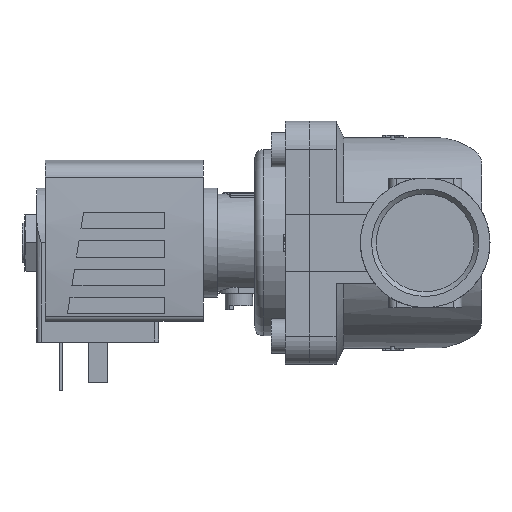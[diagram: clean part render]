
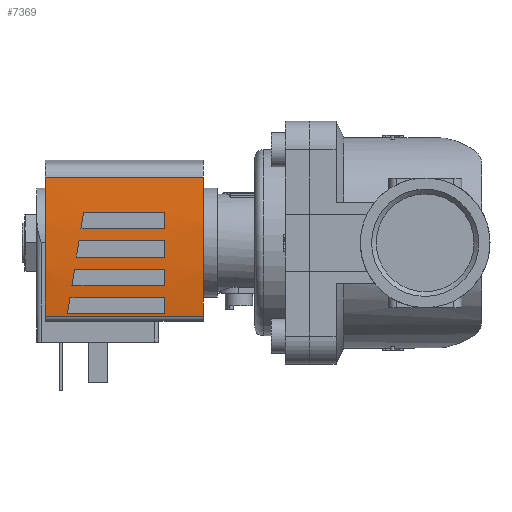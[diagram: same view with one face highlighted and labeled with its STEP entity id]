
A CAD part, left-side view. The second image highlights one B-rep face of the part: STEP entity #7369.
In plain terms, the highlighted cylindrical face has radius 130 mm (diameter 260 mm), a partial arc.
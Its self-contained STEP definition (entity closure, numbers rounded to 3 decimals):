
#92=ELLIPSE('',#7970,131.653,130.);
#93=ELLIPSE('',#7972,131.653,130.);
#94=ELLIPSE('',#7975,131.653,130.);
#95=ELLIPSE('',#7977,131.653,130.);
#248=CYLINDRICAL_SURFACE('',#7969,130.);
#676=LINE('',#11525,#1212);
#678=LINE('',#11545,#1214);
#679=LINE('',#11549,#1215);
#680=LINE('',#11550,#1216);
#681=LINE('',#11555,#1217);
#682=LINE('',#11560,#1218);
#683=LINE('',#11564,#1219);
#684=LINE('',#11568,#1220);
#685=LINE('',#11572,#1221);
#686=LINE('',#11576,#1222);
#1212=VECTOR('',#9485,1000.);
#1214=VECTOR('',#9507,1000.);
#1215=VECTOR('',#9510,1000.);
#1216=VECTOR('',#9511,1000.);
#1217=VECTOR('',#9514,1000.);
#1218=VECTOR('',#9519,1000.);
#1219=VECTOR('',#9522,1000.);
#1220=VECTOR('',#9525,1000.);
#1221=VECTOR('',#9528,1000.);
#1222=VECTOR('',#9531,1000.);
#2694=ORIENTED_EDGE('',*,*,#3780,.F.);
#2695=ORIENTED_EDGE('',*,*,#3781,.F.);
#2696=ORIENTED_EDGE('',*,*,#3782,.F.);
#2697=ORIENTED_EDGE('',*,*,#3783,.F.);
#2698=ORIENTED_EDGE('',*,*,#3784,.F.);
#2699=ORIENTED_EDGE('',*,*,#3785,.F.);
#2700=ORIENTED_EDGE('',*,*,#3786,.F.);
#2701=ORIENTED_EDGE('',*,*,#3787,.F.);
#2702=ORIENTED_EDGE('',*,*,#3788,.T.);
#2703=ORIENTED_EDGE('',*,*,#3789,.F.);
#2704=ORIENTED_EDGE('',*,*,#3774,.F.);
#2705=ORIENTED_EDGE('',*,*,#3771,.T.);
#2706=ORIENTED_EDGE('',*,*,#3790,.F.);
#2707=ORIENTED_EDGE('',*,*,#3791,.F.);
#2708=ORIENTED_EDGE('',*,*,#3792,.F.);
#2709=ORIENTED_EDGE('',*,*,#3793,.F.);
#2710=ORIENTED_EDGE('',*,*,#3794,.F.);
#2711=ORIENTED_EDGE('',*,*,#3795,.F.);
#2712=ORIENTED_EDGE('',*,*,#3796,.F.);
#2713=ORIENTED_EDGE('',*,*,#3797,.F.);
#3771=EDGE_CURVE('',#4425,#4424,#676,.T.);
#3774=EDGE_CURVE('',#4425,#4427,#4718,.T.);
#3780=EDGE_CURVE('',#4431,#4432,#92,.T.);
#3781=EDGE_CURVE('',#4433,#4431,#678,.F.);
#3782=EDGE_CURVE('',#4434,#4433,#4723,.T.);
#3783=EDGE_CURVE('',#4432,#4434,#679,.T.);
#3784=EDGE_CURVE('',#4435,#4436,#680,.T.);
#3785=EDGE_CURVE('',#4437,#4435,#93,.T.);
#3786=EDGE_CURVE('',#4438,#4437,#681,.F.);
#3787=EDGE_CURVE('',#4436,#4438,#4724,.T.);
#3788=EDGE_CURVE('',#4424,#4439,#4725,.T.);
#3789=EDGE_CURVE('',#4427,#4439,#682,.T.);
#3790=EDGE_CURVE('',#4440,#4441,#94,.T.);
#3791=EDGE_CURVE('',#4442,#4440,#683,.F.);
#3792=EDGE_CURVE('',#4443,#4442,#4726,.T.);
#3793=EDGE_CURVE('',#4441,#4443,#684,.T.);
#3794=EDGE_CURVE('',#4444,#4445,#95,.T.);
#3795=EDGE_CURVE('',#4446,#4444,#685,.F.);
#3796=EDGE_CURVE('',#4447,#4446,#4727,.T.);
#3797=EDGE_CURVE('',#4445,#4447,#686,.T.);
#4424=VERTEX_POINT('',#11524);
#4425=VERTEX_POINT('',#11526);
#4427=VERTEX_POINT('',#11532);
#4431=VERTEX_POINT('',#11543);
#4432=VERTEX_POINT('',#11544);
#4433=VERTEX_POINT('',#11546);
#4434=VERTEX_POINT('',#11548);
#4435=VERTEX_POINT('',#11551);
#4436=VERTEX_POINT('',#11552);
#4437=VERTEX_POINT('',#11554);
#4438=VERTEX_POINT('',#11556);
#4439=VERTEX_POINT('',#11559);
#4440=VERTEX_POINT('',#11562);
#4441=VERTEX_POINT('',#11563);
#4442=VERTEX_POINT('',#11565);
#4443=VERTEX_POINT('',#11567);
#4444=VERTEX_POINT('',#11570);
#4445=VERTEX_POINT('',#11571);
#4446=VERTEX_POINT('',#11573);
#4447=VERTEX_POINT('',#11575);
#4718=CIRCLE('',#7964,130.);
#4723=CIRCLE('',#7971,130.);
#4724=CIRCLE('',#7973,130.);
#4725=CIRCLE('',#7974,130.);
#4726=CIRCLE('',#7976,130.);
#4727=CIRCLE('',#7978,130.);
#5054=EDGE_LOOP('',(#2694,#2695,#2696,#2697));
#5055=EDGE_LOOP('',(#2698,#2699,#2700,#2701));
#5056=EDGE_LOOP('',(#2702,#2703,#2704,#2705));
#5057=EDGE_LOOP('',(#2706,#2707,#2708,#2709));
#5058=EDGE_LOOP('',(#2710,#2711,#2712,#2713));
#5459=FACE_BOUND('',#5054,.T.);
#5460=FACE_BOUND('',#5055,.T.);
#5461=FACE_BOUND('',#5056,.T.);
#5462=FACE_BOUND('',#5057,.T.);
#5463=FACE_BOUND('',#5058,.T.);
#7369=ADVANCED_FACE('',(#5459,#5460,#5461,#5462,#5463),#248,.T.);
#7964=AXIS2_PLACEMENT_3D('',#11531,#9492,#9493);
#7969=AXIS2_PLACEMENT_3D('',#11541,#9503,#9504);
#7970=AXIS2_PLACEMENT_3D('',#11542,#9505,#9506);
#7971=AXIS2_PLACEMENT_3D('',#11547,#9508,#9509);
#7972=AXIS2_PLACEMENT_3D('',#11553,#9512,#9513);
#7973=AXIS2_PLACEMENT_3D('',#11557,#9515,#9516);
#7974=AXIS2_PLACEMENT_3D('',#11558,#9517,#9518);
#7975=AXIS2_PLACEMENT_3D('',#11561,#9520,#9521);
#7976=AXIS2_PLACEMENT_3D('',#11566,#9523,#9524);
#7977=AXIS2_PLACEMENT_3D('',#11569,#9526,#9527);
#7978=AXIS2_PLACEMENT_3D('',#11574,#9529,#9530);
#9485=DIRECTION('',(0.,-1.,0.));
#9492=DIRECTION('',(0.,1.,0.));
#9493=DIRECTION('',(1.,0.,0.));
#9503=DIRECTION('',(0.,-1.,0.));
#9504=DIRECTION('',(0.,0.,-1.));
#9505=DIRECTION('',(-0.158,-0.987,0.));
#9506=DIRECTION('',(0.987,-0.158,0.));
#9507=DIRECTION('',(0.,-1.,0.));
#9508=DIRECTION('',(0.,1.,0.));
#9509=DIRECTION('',(0.,0.,1.));
#9510=DIRECTION('',(0.,-1.,0.));
#9511=DIRECTION('',(0.,-1.,0.));
#9512=DIRECTION('',(-0.158,-0.987,0.));
#9513=DIRECTION('',(0.987,-0.158,0.));
#9514=DIRECTION('',(0.,-1.,0.));
#9515=DIRECTION('',(0.,1.,0.));
#9516=DIRECTION('',(0.,0.,1.));
#9517=DIRECTION('',(0.,1.,0.));
#9518=DIRECTION('',(1.,0.,0.));
#9519=DIRECTION('',(0.,-1.,0.));
#9520=DIRECTION('',(-0.158,-0.987,0.));
#9521=DIRECTION('',(0.987,-0.158,0.));
#9522=DIRECTION('',(0.,-1.,0.));
#9523=DIRECTION('',(0.,1.,0.));
#9524=DIRECTION('',(0.,0.,1.));
#9525=DIRECTION('',(0.,-1.,0.));
#9526=DIRECTION('',(-0.158,-0.987,0.));
#9527=DIRECTION('',(0.987,-0.158,0.));
#9528=DIRECTION('',(0.,-1.,0.));
#9529=DIRECTION('',(0.,1.,0.));
#9530=DIRECTION('',(0.,0.,1.));
#9531=DIRECTION('',(0.,-1.,0.));
#11524=CARTESIAN_POINT('',(-18.071,-26.,14.738));
#11525=CARTESIAN_POINT('',(-18.071,13.,14.738));
#11526=CARTESIAN_POINT('',(-18.071,13.,14.738));
#11531=CARTESIAN_POINT('',(0.,13.,-114.));
#11532=CARTESIAN_POINT('',(16.195,13.,14.987));
#11541=CARTESIAN_POINT('',(0.,13.,-114.));
#11542=CARTESIAN_POINT('',(0.,4.7,-114.));
#11543=CARTESIAN_POINT('',(0.5,4.62,15.999));
#11544=CARTESIAN_POINT('',(-3.5,5.26,15.953));
#11545=CARTESIAN_POINT('',(0.5,13.,15.999));
#11546=CARTESIAN_POINT('',(0.5,-16.5,15.999));
#11547=CARTESIAN_POINT('',(0.,-16.5,-114.));
#11548=CARTESIAN_POINT('',(-3.5,-16.5,15.953));
#11549=CARTESIAN_POINT('',(-3.5,13.,15.953));
#11550=CARTESIAN_POINT('',(-17.5,13.,14.817));
#11551=CARTESIAN_POINT('',(-17.5,7.5,14.817));
#11552=CARTESIAN_POINT('',(-17.5,-16.5,14.817));
#11553=CARTESIAN_POINT('',(0.,4.7,-114.));
#11554=CARTESIAN_POINT('',(-13.5,6.86,15.297));
#11555=CARTESIAN_POINT('',(-13.5,13.,15.297));
#11556=CARTESIAN_POINT('',(-13.5,-16.5,15.297));
#11557=CARTESIAN_POINT('',(0.,-16.5,-114.));
#11558=CARTESIAN_POINT('',(0.,-26.,-114.));
#11559=CARTESIAN_POINT('',(16.195,-26.,14.987));
#11560=CARTESIAN_POINT('',(16.195,13.,14.987));
#11561=CARTESIAN_POINT('',(0.,4.7,-114.));
#11562=CARTESIAN_POINT('',(-6.5,5.74,15.837));
#11563=CARTESIAN_POINT('',(-10.5,6.38,15.575));
#11564=CARTESIAN_POINT('',(-6.5,13.,15.837));
#11565=CARTESIAN_POINT('',(-6.5,-16.5,15.837));
#11566=CARTESIAN_POINT('',(0.,-16.5,-114.));
#11567=CARTESIAN_POINT('',(-10.5,-16.5,15.575));
#11568=CARTESIAN_POINT('',(-10.5,13.,15.575));
#11569=CARTESIAN_POINT('',(0.,4.7,-114.));
#11570=CARTESIAN_POINT('',(7.5,3.5,15.783));
#11571=CARTESIAN_POINT('',(3.5,4.14,15.953));
#11572=CARTESIAN_POINT('',(7.5,13.,15.783));
#11573=CARTESIAN_POINT('',(7.5,-16.5,15.783));
#11574=CARTESIAN_POINT('',(0.,-16.5,-114.));
#11575=CARTESIAN_POINT('',(3.5,-16.5,15.953));
#11576=CARTESIAN_POINT('',(3.5,13.,15.953));
